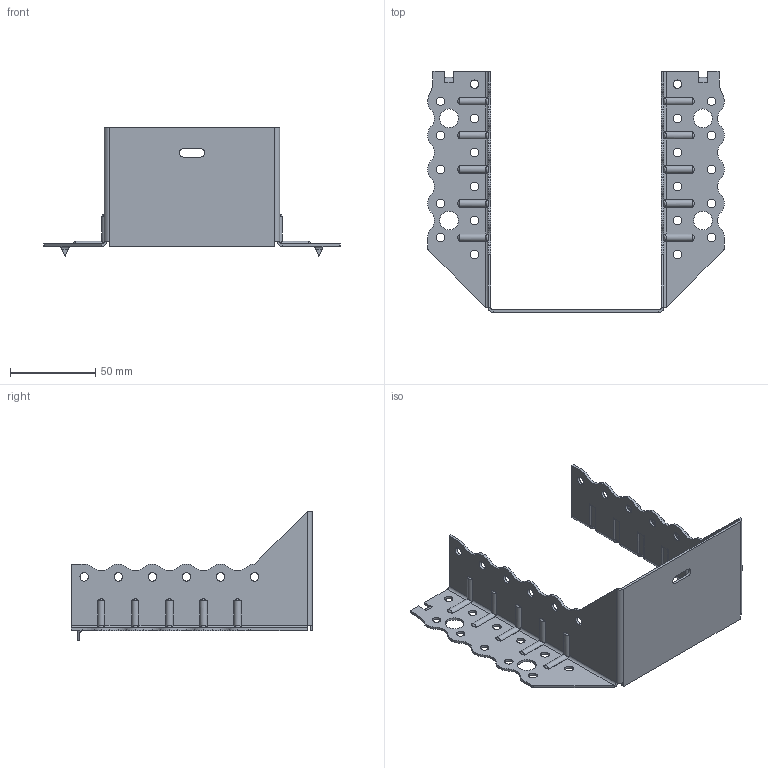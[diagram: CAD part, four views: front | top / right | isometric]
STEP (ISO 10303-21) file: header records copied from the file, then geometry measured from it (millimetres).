
FILE_DESCRIPTION (( 'STEP AP203' ), '1' );
FILE_NAME ('30508TOP.STEP', '2021-04-07T13:50:06', ( '' ), ( '' ), 'SwSTEP 2.0', 'SolidWorks 2013', '' );
FILE_SCHEMA (( 'CONFIG_CONTROL_DESIGN' ));
Length unit declared in the file: millimetre
Products named in the file (1): 30508TOP
Bounding box: 174 x 141.5 x 76 mm (x, y, z)
Volume: 38449.5 mm3; surface area: 54700.3 mm2
Topology: 1 solids, 1 shells, 428 faces, 1154 edges, 728 vertices
Faces by surface type: cylinder 269, plane 119, torus 20, bspline 20
Entity records: 15880 total; most frequent: CARTESIAN_POINT 5007, ORIENTED_EDGE 2308, DIRECTION 2228, EDGE_CURVE 1154, AXIS2_PLACEMENT_3D 813, VERTEX_POINT 728, LINE 602, VECTOR 602
